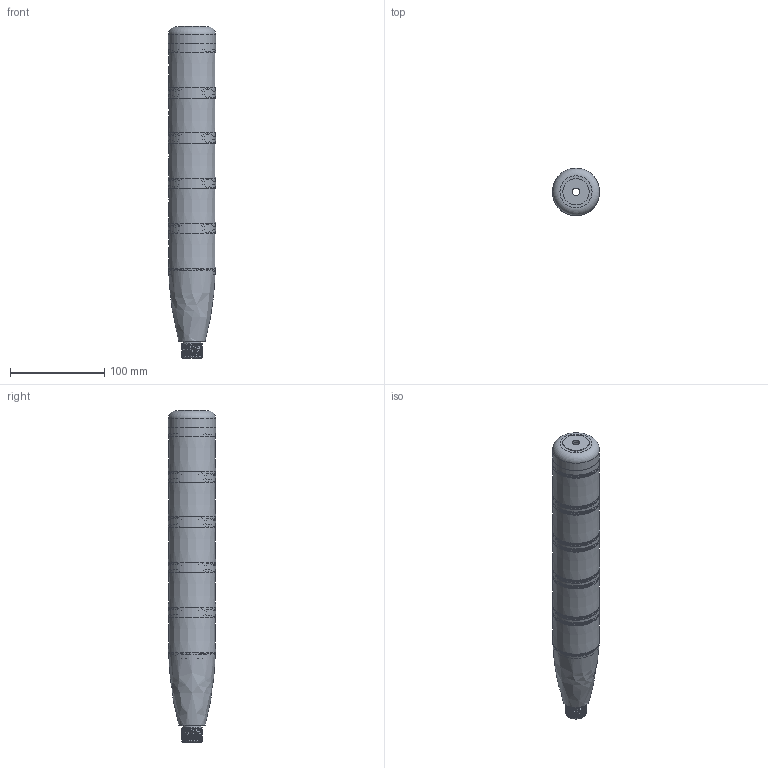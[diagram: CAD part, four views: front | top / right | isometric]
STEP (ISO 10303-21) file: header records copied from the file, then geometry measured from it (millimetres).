
FILE_DESCRIPTION(/* description */ (''),/* implementation_level */ '2;1');
FILE_NAME(/* name */ 'OLE3-501 带蜂鸣.stp',/* time_stamp */ '2022-12-13T18:47:52+08:00',/* author */ (''),/* organization */ (''),/* preprocessor_version */ 'ST-DEVELOPER v16.7',/* originating_system */ 'SIEMENS PLM Software NX 12.0',/* authorisation */ '');
FILE_SCHEMA (('AUTOMOTIVE_DESIGN { 1 0 10303 214 3 1 1 1 }'));
Length unit declared in the file: millimetre
Products named in the file (1): Admi15EC76A1t4xb
Bounding box: 50.3 x 50.3 x 352.5 mm (x, y, z)
Volume: 129615.8 mm3; surface area: 154861.8 mm2
Topology: 12 solids, 14 shells, 2066 faces, 6005 edges, 4000 vertices
Faces by surface type: plane 1288, cylinder 686, bspline 71, cone 19, torus 2
Full cylindrical faces by diameter (mm): 8 x1, 18 x2, 20 x1, 28 x1, 32 x5, 39 x5, 42 x1, 43 x3, 44 x5, 46.3 x6, 47 x1, 48.1 x1, 50 x1, 50.3 x5
Entity records: 100818 total; most frequent: CARTESIAN_POINT 45438, ORIENTED_EDGE 11822, DIRECTION 11567, EDGE_CURVE 5911, VERTEX_POINT 3959, AXIS2_PLACEMENT_3D 3944, LINE 3679, VECTOR 3679
